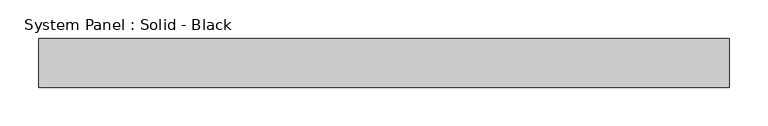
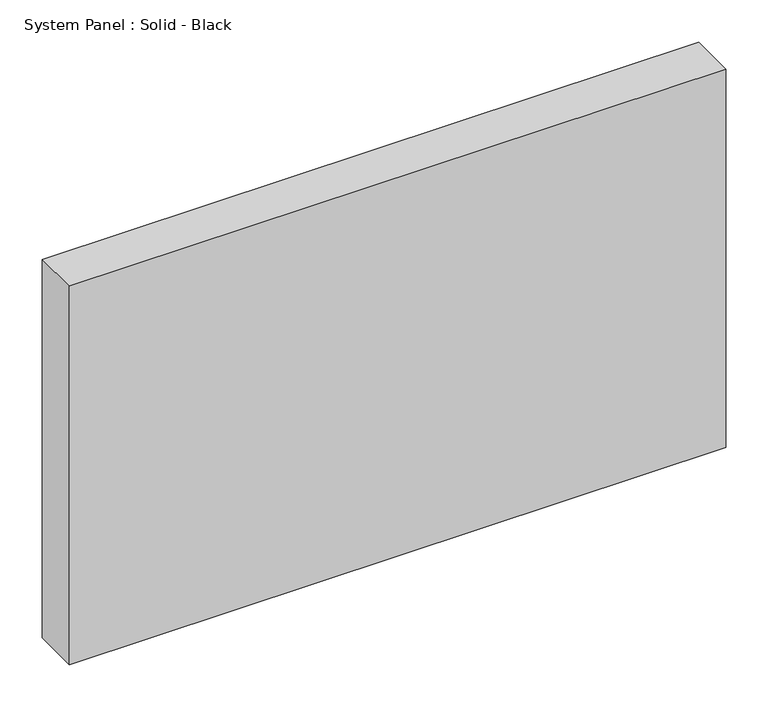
"""IFC4 building model written with IfcOpenShell, lengths in millimetres: plate geometry, System Panel : Solid - Black."""

from ifc_helpers import new_model, si_unit, origin, origin_with_axes, place, context, project, spatial, polyline, outline, extrude, source, transform, mapped, element, save


def system_panel_solid_black_577d62a5(model_context):
    return source(origin(), model_context, "Body", "SweptSolid", [
        extrude(outline(polyline([(447.675, -44.45), (-447.675, -44.45), (-447.675, 19.05), (447.675, 19.05), (447.675, -44.45)])), origin_with_axes(), (0.0, 0.0, 1.0), 546.1),
    ])


if __name__ == "__main__":
    model = new_model("IFC4")
    model_context = context("Model", 3, world=origin())
    ifc_project = project(units=[si_unit("LENGTHUNIT", "METRE", prefix="MILLI")], contexts=[model_context])
    site = spatial("IfcSite", under=ifc_project)
    building = spatial("IfcBuilding", under=site)
    placement = place(None, origin())
    system_panel_solid_black_shape = system_panel_solid_black_577d62a5(model_context)
    element("IfcPlate", 1, ObjectType="System Panel : Solid - Black", at=placement, inside=building, context=model_context, shape_type="MappedRepresentation", body=[
        mapped(system_panel_solid_black_shape, transform((0.0, 0.0, 0.0), x_axis=(1.0, 0.0, 0.0), y_axis=(0.0, 1.0, 0.0), z_axis=(0.0, 0.0, 1.0))),
    ])
    save(model, "model.ifc")
